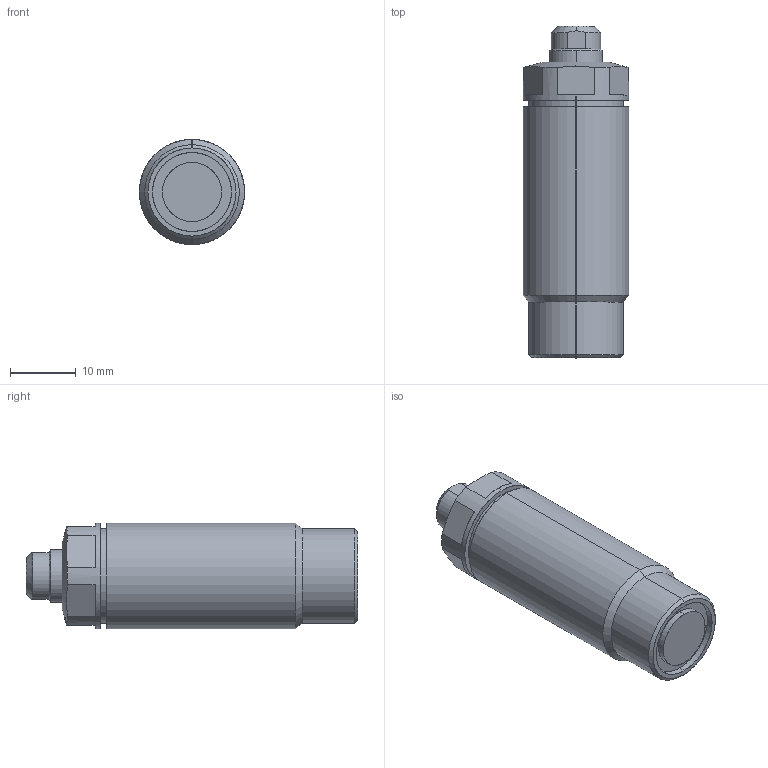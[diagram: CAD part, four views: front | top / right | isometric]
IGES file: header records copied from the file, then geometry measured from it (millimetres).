
Start section: SolidWorks IGES file using analytic representation for surfaces
Global section: file name: D:\karuppas\Clasp\3D model\Thread body cylinder\T03C-M160- L threaded pusher\T03C-M160-L threaded pusher.IGS; native system: SolidWorks 2017; preprocessor: SolidWorks 2017; author: pc; date: 220709.230347; units: millimetre
Bounding box: 16 x 50.5 x 16 mm (x, y, z)
Surface area: 4029.5 mm2 (no closed solid volume)
Topology: 0 solids, 0 shells, 233 faces, 2661 edges, 2659 vertices
Faces by surface type: bspline 200, revolution 33
